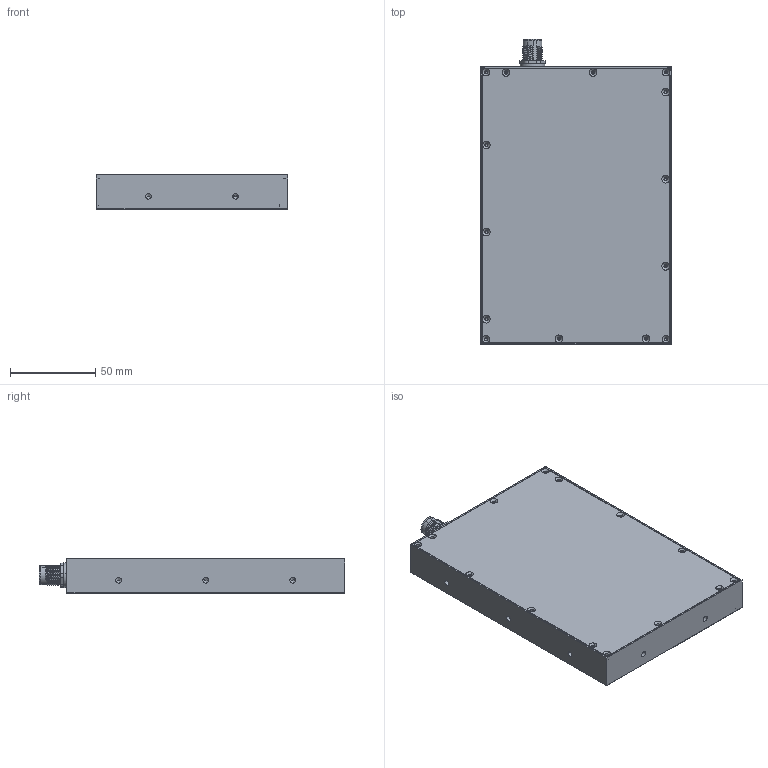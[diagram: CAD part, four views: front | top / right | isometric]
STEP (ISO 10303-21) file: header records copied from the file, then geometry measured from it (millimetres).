
FILE_DESCRIPTION (( 'STEP AP214' ), '1' );
FILE_NAME ('SBACK II 150x100.STEP', '2013-06-27T09:56:13', ( ' ' ), ( '' ), 'SwSTEP 2.0', 'SolidWorks 2009', '' );
FILE_SCHEMA (( 'AUTOMOTIVE_DESIGN' ));
Length unit declared in the file: millimetre
Products named in the file (1): SBACK II 150x100
Bounding box: 112 x 179 x 20 mm (x, y, z)
Volume: 130303.8 mm3; surface area: 98533.7 mm2
Topology: 3 solids, 7 shells, 503 faces, 1275 edges, 766 vertices
Faces by surface type: cylinder 188, plane 149, cone 110, bspline 48, sphere 8
Entity records: 38284 total; most frequent: CARTESIAN_POINT 21465, ORIENTED_EDGE 2394, DIRECTION 2288, EDGE_CURVE 1197, AXIS2_PLACEMENT_3D 841, VERTEX_POINT 758, VECTOR 606, LINE 606
